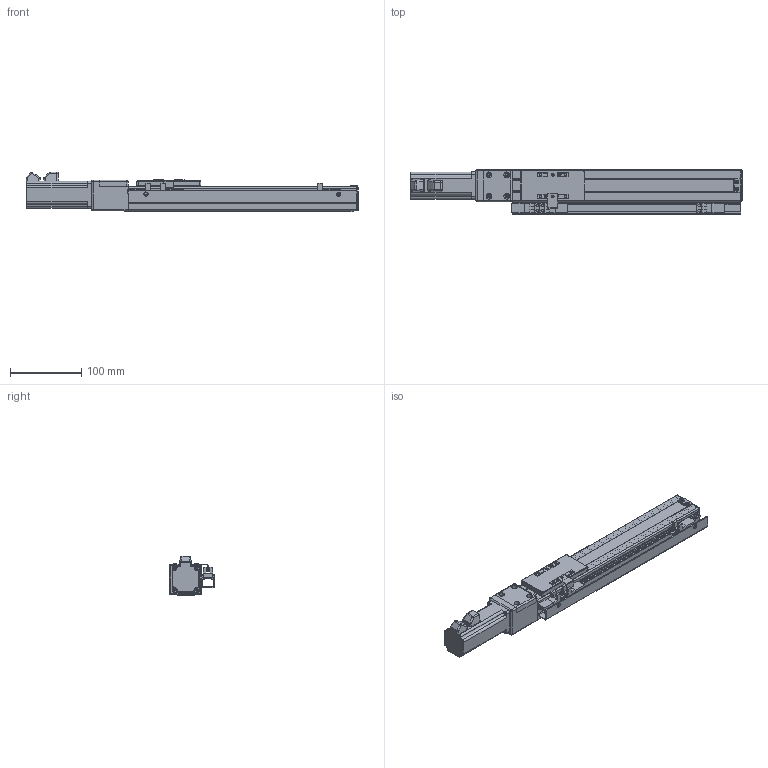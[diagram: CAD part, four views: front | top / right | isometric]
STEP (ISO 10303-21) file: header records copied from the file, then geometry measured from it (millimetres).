
FILE_DESCRIPTION (( 'STEP AP203' ), '1' );
FILE_NAME ('VT4-L12-C-S200-BC-P10-C4.STEP', '2015-10-26T03:45:07', ( '' ), ( '' ), 'SwSTEP 2.0', 'SolidWorks 2013', '' );
FILE_SCHEMA (( 'CONFIG_CONTROL_DESIGN' ));
Length unit declared in the file: millimetre
Products named in the file (15): VT4-L12-C-S200-BC-P10-C4; T4-綴傷裔; T4-耜啣羲耀芞2_俴最200; T4-賑雄殤; T4-裔啣; T4-揤輸; T4-覜茼え; T6-癹弇羲壽羞_俴最200; EE-SX674-WR; SFKR0802佪裝TBI_俴最200; MGW12C-絳寢_俴最200; T4-BCヶ傷裔-100; T4-BCヶ傷裔揤啣; T4-BC 詩湍; 侂狟100W MSMD012G1U
Assembly tree (17 placements, depth 2):
  VT4-L12-C-S200-BC-P10-C4
    T4-綴傷裔
    T4-耜啣羲耀芞2_俴最200  x2
    T4-賑雄殤
    T4-裔啣
    T4-揤輸
    T4-覜茼え
    T6-癹弇羲壽羞_俴最200
    EE-SX674-WR  x3
    SFKR0802佪裝TBI_俴最200
    MGW12C-絳寢_俴最200
    T4-BCヶ傷裔-100
    T4-BCヶ傷裔揤啣
    T4-BC 詩湍
    侂狟100W MSMD012G1U
Bounding box: 465 x 63 x 56 mm (x, y, z)
Volume: 431580.1 mm3; surface area: 256396 mm2
Topology: 20 solids, 20 shells, 1156 faces, 3084 edges, 1948 vertices
Faces by surface type: plane 534, cylinder 512, cone 56, torus 30, sphere 24
Entity records: 31810 total; most frequent: CARTESIAN_POINT 5874, DIRECTION 5249, ORIENTED_EDGE 4944, EDGE_CURVE 2472, AXIS2_PLACEMENT_3D 1891, VERTEX_POINT 1582, VECTOR 1467, LINE 1467
